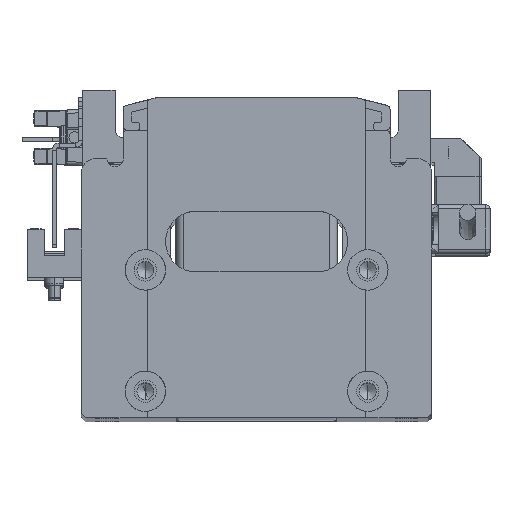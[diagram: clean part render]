
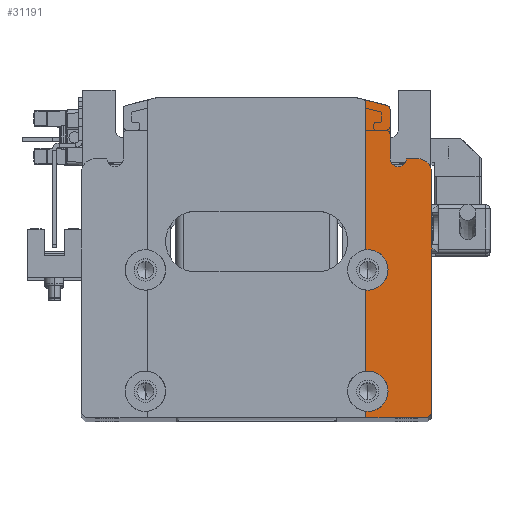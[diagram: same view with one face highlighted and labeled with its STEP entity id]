
A CAD part, top view. The second image highlights one B-rep face of the part: STEP entity #31191.
In plain terms, the highlighted planar face has unit normal (0, 0, 1).
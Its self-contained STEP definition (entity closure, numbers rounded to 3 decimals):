
#4 = ORIENTED_EDGE ( 'NONE', *, *, #15881, .T. ) ;
#248 = CARTESIAN_POINT ( 'NONE',  ( 43.3, -39.5, 12.5 ) ) ;
#320 = DIRECTION ( 'NONE',  ( 0., -1., 0. ) ) ;
#1027 = LINE ( 'NONE', #36835, #6651 ) ;
#1550 = VERTEX_POINT ( 'NONE', #13478 ) ;
#1640 = VERTEX_POINT ( 'NONE', #21983 ) ;
#1784 = DIRECTION ( 'NONE',  ( -1., 0., 0. ) ) ;
#1894 = AXIS2_PLACEMENT_3D ( 'NONE', #38364, #18048, #25827 ) ;
#2129 = CARTESIAN_POINT ( 'NONE',  ( 43.3, -38.5, 12.5 ) ) ;
#2450 = DIRECTION ( 'NONE',  ( -1., 0., 0. ) ) ;
#3666 = EDGE_CURVE ( 'NONE', #1640, #17613, #1027, .T. ) ;
#3954 = LINE ( 'NONE', #29651, #16393 ) ;
#4070 = DIRECTION ( 'NONE',  ( 1., 0., 0. ) ) ;
#4417 = CIRCLE ( 'NONE', #21778, 5. ) ;
#4549 = LINE ( 'NONE', #2129, #37383 ) ;
#4591 = LINE ( 'NONE', #44882, #50572 ) ;
#4810 = VERTEX_POINT ( 'NONE', #44446 ) ;
#5199 = VERTEX_POINT ( 'NONE', #6680 ) ;
#5884 = LINE ( 'NONE', #36943, #36867 ) ;
#5888 = CIRCLE ( 'NONE', #16207, 2. ) ;
#6081 = DIRECTION ( 'NONE',  ( -0.97, 0.243, 0. ) ) ;
#6262 = DIRECTION ( 'NONE',  ( -1., 0., 0. ) ) ;
#6572 = CARTESIAN_POINT ( 'NONE',  ( 32.5, -3., 12.5 ) ) ;
#6626 = ORIENTED_EDGE ( 'NONE', *, *, #3666, .T. ) ;
#6651 = VECTOR ( 'NONE', #17067, 1000. ) ;
#6680 = CARTESIAN_POINT ( 'NONE',  ( 33., 24.5, 12.5 ) ) ;
#6696 = VECTOR ( 'NONE', #4070, 1000. ) ;
#6945 = EDGE_CURVE ( 'NONE', #27827, #16678, #19705, .T. ) ;
#7205 = AXIS2_PLACEMENT_3D ( 'NONE', #33798, #14375, #2450 ) ;
#7428 = ORIENTED_EDGE ( 'NONE', *, *, #36127, .T. ) ;
#7978 = VERTEX_POINT ( 'NONE', #11044 ) ;
#8105 = CARTESIAN_POINT ( 'NONE',  ( 26., 38.219, 12.5 ) ) ;
#8681 = EDGE_CURVE ( 'NONE', #10818, #7978, #5884, .T. ) ;
#8768 = ORIENTED_EDGE ( 'NONE', *, *, #6945, .T. ) ;
#8815 = VERTEX_POINT ( 'NONE', #6572 ) ;
#8961 = DIRECTION ( 'NONE',  ( -1., 0., 0. ) ) ;
#9111 = CARTESIAN_POINT ( 'NONE',  ( 27.5, -33., 12.5 ) ) ;
#9634 = DIRECTION ( 'NONE',  ( -1., 0., 0. ) ) ;
#9638 = DIRECTION ( 'NONE',  ( 0., 0., 1. ) ) ;
#10127 = CARTESIAN_POINT ( 'NONE',  ( 42.3, -39.5, 12.5 ) ) ;
#10818 = VERTEX_POINT ( 'NONE', #25287 ) ;
#11044 = CARTESIAN_POINT ( 'NONE',  ( 27., -28.025, 12.5 ) ) ;
#11149 = CARTESIAN_POINT ( 'NONE',  ( 26.243, 39.189, 12.5 ) ) ;
#12512 = AXIS2_PLACEMENT_3D ( 'NONE', #29520, #33322, #1784 ) ;
#12566 = EDGE_CURVE ( 'NONE', #17613, #5199, #5888, .T. ) ;
#12598 = VERTEX_POINT ( 'NONE', #20934 ) ;
#12907 = DIRECTION ( 'NONE',  ( 0., -1., 0. ) ) ;
#13216 = ORIENTED_EDGE ( 'NONE', *, *, #12566, .T. ) ;
#13273 = EDGE_CURVE ( 'NONE', #16678, #19576, #4549, .T. ) ;
#13370 = CIRCLE ( 'NONE', #39438, 3.5 ) ;
#13478 = CARTESIAN_POINT ( 'NONE',  ( 27., 1.975, 12.5 ) ) ;
#13851 = EDGE_CURVE ( 'NONE', #17985, #27258, #3954, .T. ) ;
#14375 = DIRECTION ( 'NONE',  ( 0., 0., -1. ) ) ;
#14966 = CARTESIAN_POINT ( 'NONE',  ( 33., 0., 12.5 ) ) ;
#15881 = EDGE_CURVE ( 'NONE', #8815, #10818, #20237, .T. ) ;
#16207 = AXIS2_PLACEMENT_3D ( 'NONE', #32683, #44712, #8961 ) ;
#16308 = EDGE_LOOP ( 'NONE', ( #7428, #17327, #30260, #20541, #27604, #44759, #4, #50340, #18269, #22339, #19955, #8768, #34609, #42834, #17197, #6626, #13216 ) ) ;
#16373 = CIRCLE ( 'NONE', #12512, 1. ) ;
#16393 = VECTOR ( 'NONE', #6081, 1000. ) ;
#16678 = VERTEX_POINT ( 'NONE', #10127 ) ;
#17067 = DIRECTION ( 'NONE',  ( -1., 0., 0. ) ) ;
#17197 = ORIENTED_EDGE ( 'NONE', *, *, #31566, .T. ) ;
#17268 = CARTESIAN_POINT ( 'NONE',  ( 33., 36.719, 12.5 ) ) ;
#17327 = ORIENTED_EDGE ( 'NONE', *, *, #33899, .T. ) ;
#17610 = CARTESIAN_POINT ( 'NONE',  ( 39.8, 21., 12.5 ) ) ;
#17613 = VERTEX_POINT ( 'NONE', #19345 ) ;
#17717 = CARTESIAN_POINT ( 'NONE',  ( 0., 0., 12.5 ) ) ;
#17985 = VERTEX_POINT ( 'NONE', #33867 ) ;
#18048 = DIRECTION ( 'NONE',  ( 0., 0., -1. ) ) ;
#18099 = AXIS2_PLACEMENT_3D ( 'NONE', #39890, #40561, #44564 ) ;
#18261 = EDGE_CURVE ( 'NONE', #1550, #8815, #50001, .T. ) ;
#18269 = ORIENTED_EDGE ( 'NONE', *, *, #40032, .T. ) ;
#18823 = AXIS2_PLACEMENT_3D ( 'NONE', #17717, #25848, #6262 ) ;
#18976 = DIRECTION ( 'NONE',  ( 0., 1., 0. ) ) ;
#19345 = CARTESIAN_POINT ( 'NONE',  ( 37., 24.5, 12.5 ) ) ;
#19576 = VERTEX_POINT ( 'NONE', #34132 ) ;
#19705 = LINE ( 'NONE', #248, #6696 ) ;
#19955 = ORIENTED_EDGE ( 'NONE', *, *, #28385, .T. ) ;
#20237 = CIRCLE ( 'NONE', #18099, 5. ) ;
#20386 = VERTEX_POINT ( 'NONE', #30304 ) ;
#20541 = ORIENTED_EDGE ( 'NONE', *, *, #40263, .T. ) ;
#20934 = CARTESIAN_POINT ( 'NONE',  ( 43.3, 21., 12.5 ) ) ;
#21419 = DIRECTION ( 'NONE',  ( 0., 0., -1. ) ) ;
#21538 = DIRECTION ( 'NONE',  ( 0., 1., 0. ) ) ;
#21778 = AXIS2_PLACEMENT_3D ( 'NONE', #9111, #21419, #9634 ) ;
#21983 = CARTESIAN_POINT ( 'NONE',  ( 39.8, 24.5, 12.5 ) ) ;
#22339 = ORIENTED_EDGE ( 'NONE', *, *, #39016, .T. ) ;
#22846 = VERTEX_POINT ( 'NONE', #17268 ) ;
#24026 = DIRECTION ( 'NONE',  ( 0., 0., -1. ) ) ;
#24903 = VECTOR ( 'NONE', #18976, 1000. ) ;
#25287 = CARTESIAN_POINT ( 'NONE',  ( 27., -7.975, 12.5 ) ) ;
#25380 = DIRECTION ( 'NONE',  ( 0.707, 0.707, 0. ) ) ;
#25827 = DIRECTION ( 'NONE',  ( -1., 0., 0. ) ) ;
#25848 = DIRECTION ( 'NONE',  ( 0., 0., -1. ) ) ;
#25906 = VECTOR ( 'NONE', #21538, 1000. ) ;
#26057 = CIRCLE ( 'NONE', #7205, 5. ) ;
#27258 = VERTEX_POINT ( 'NONE', #11149 ) ;
#27604 = ORIENTED_EDGE ( 'NONE', *, *, #37412, .T. ) ;
#27827 = VERTEX_POINT ( 'NONE', #50221 ) ;
#28385 = EDGE_CURVE ( 'NONE', #39993, #27827, #51357, .T. ) ;
#28975 = CARTESIAN_POINT ( 'NONE',  ( 43.3, 39.5, 12.5 ) ) ;
#29520 = CARTESIAN_POINT ( 'NONE',  ( 32., 36.719, 12.5 ) ) ;
#29651 = CARTESIAN_POINT ( 'NONE',  ( 10.765, 43.059, 12.5 ) ) ;
#30008 = PLANE ( 'NONE',  #18823 ) ;
#30260 = ORIENTED_EDGE ( 'NONE', *, *, #13851, .T. ) ;
#30304 = CARTESIAN_POINT ( 'NONE',  ( 32.5, -33., 12.5 ) ) ;
#31191 = ADVANCED_FACE ( 'NONE', ( #35167 ), #30008, .F. ) ;
#31548 = CARTESIAN_POINT ( 'NONE',  ( 27., 39.5, 12.5 ) ) ;
#31566 = EDGE_CURVE ( 'NONE', #12598, #1640, #13370, .T. ) ;
#32043 = EDGE_CURVE ( 'NONE', #19576, #12598, #47033, .T. ) ;
#32683 = CARTESIAN_POINT ( 'NONE',  ( 35., 24.5, 12.5 ) ) ;
#32904 = CARTESIAN_POINT ( 'NONE',  ( 27., -37.975, 12.5 ) ) ;
#32914 = DIRECTION ( 'NONE',  ( 0., -1., 0. ) ) ;
#33322 = DIRECTION ( 'NONE',  ( 0., 0., 1. ) ) ;
#33798 = CARTESIAN_POINT ( 'NONE',  ( 27.5, -33., 12.5 ) ) ;
#33867 = CARTESIAN_POINT ( 'NONE',  ( 32.243, 37.689, 12.5 ) ) ;
#33899 = EDGE_CURVE ( 'NONE', #22846, #17985, #16373, .T. ) ;
#34132 = CARTESIAN_POINT ( 'NONE',  ( 43.3, -38.5, 12.5 ) ) ;
#34609 = ORIENTED_EDGE ( 'NONE', *, *, #13273, .T. ) ;
#35167 = FACE_OUTER_BOUND ( 'NONE', #16308, .T. ) ;
#36127 = EDGE_CURVE ( 'NONE', #5199, #22846, #38656, .T. ) ;
#36835 = CARTESIAN_POINT ( 'NONE',  ( 0., 24.5, 12.5 ) ) ;
#36867 = VECTOR ( 'NONE', #32914, 1000. ) ;
#36943 = CARTESIAN_POINT ( 'NONE',  ( 27., 39.5, 12.5 ) ) ;
#37383 = VECTOR ( 'NONE', #25380, 1000. ) ;
#37412 = EDGE_CURVE ( 'NONE', #4810, #1550, #4591, .T. ) ;
#38364 = CARTESIAN_POINT ( 'NONE',  ( 27.5, -3., 12.5 ) ) ;
#38467 = AXIS2_PLACEMENT_3D ( 'NONE', #8105, #24026, #43854 ) ;
#38656 = LINE ( 'NONE', #14966, #24903 ) ;
#39016 = EDGE_CURVE ( 'NONE', #20386, #39993, #4417, .T. ) ;
#39438 = AXIS2_PLACEMENT_3D ( 'NONE', #17610, #9638, #41393 ) ;
#39890 = CARTESIAN_POINT ( 'NONE',  ( 27.5, -3., 12.5 ) ) ;
#39993 = VERTEX_POINT ( 'NONE', #32904 ) ;
#40032 = EDGE_CURVE ( 'NONE', #7978, #20386, #26057, .T. ) ;
#40263 = EDGE_CURVE ( 'NONE', #27258, #4810, #50856, .T. ) ;
#40561 = DIRECTION ( 'NONE',  ( 0., 0., -1. ) ) ;
#41393 = DIRECTION ( 'NONE',  ( -1., 0., 0. ) ) ;
#42834 = ORIENTED_EDGE ( 'NONE', *, *, #32043, .T. ) ;
#43854 = DIRECTION ( 'NONE',  ( -1., 0., 0. ) ) ;
#44446 = CARTESIAN_POINT ( 'NONE',  ( 27., 38.219, 12.5 ) ) ;
#44564 = DIRECTION ( 'NONE',  ( -1., 0., 0. ) ) ;
#44712 = DIRECTION ( 'NONE',  ( 0., 0., -1. ) ) ;
#44759 = ORIENTED_EDGE ( 'NONE', *, *, #18261, .T. ) ;
#44882 = CARTESIAN_POINT ( 'NONE',  ( 27., 39.5, 12.5 ) ) ;
#47033 = LINE ( 'NONE', #28975, #25906 ) ;
#48862 = VECTOR ( 'NONE', #320, 1000. ) ;
#50001 = CIRCLE ( 'NONE', #1894, 5. ) ;
#50221 = CARTESIAN_POINT ( 'NONE',  ( 27., -39.5, 12.5 ) ) ;
#50340 = ORIENTED_EDGE ( 'NONE', *, *, #8681, .T. ) ;
#50572 = VECTOR ( 'NONE', #12907, 1000. ) ;
#50856 = CIRCLE ( 'NONE', #38467, 1. ) ;
#51357 = LINE ( 'NONE', #31548, #48862 ) ;
